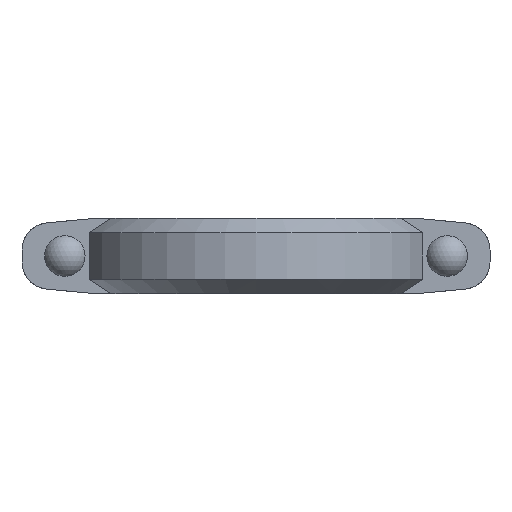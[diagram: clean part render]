
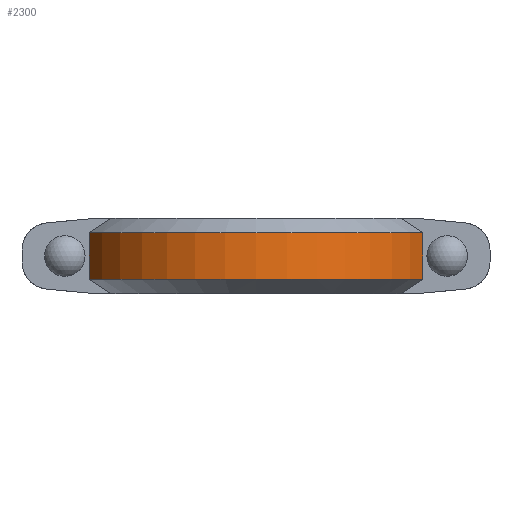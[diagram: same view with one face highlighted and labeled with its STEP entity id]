
A CAD part, front view. The second image highlights one B-rep face of the part: STEP entity #2300.
In plain terms, the highlighted cylindrical face has radius 165.1 mm (diameter 330.2 mm), a partial arc.
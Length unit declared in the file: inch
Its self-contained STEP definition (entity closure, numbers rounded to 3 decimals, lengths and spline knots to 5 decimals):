
#305=FACE_OUTER_BOUND('',#438,.T.);
#438=EDGE_LOOP('',(#2010,#2011,#2012,#2013));
#599=LINE('',#4495,#768);
#600=LINE('',#4503,#769);
#768=VECTOR('',#3151,0.3937);
#769=VECTOR('',#3154,0.3937);
#865=CIRCLE('',#2548,6.5);
#866=CIRCLE('',#2552,6.5);
#1056=VERTEX_POINT('',#4485);
#1057=VERTEX_POINT('',#4491);
#1058=VERTEX_POINT('',#4497);
#1060=VERTEX_POINT('',#4502);
#1360=EDGE_CURVE('',#1056,#1057,#599,.T.);
#1362=EDGE_CURVE('',#1060,#1058,#600,.T.);
#1381=EDGE_CURVE('',#1056,#1058,#865,.T.);
#1383=EDGE_CURVE('',#1057,#1060,#866,.T.);
#2010=ORIENTED_EDGE('',*,*,#1362,.T.);
#2011=ORIENTED_EDGE('',*,*,#1381,.F.);
#2012=ORIENTED_EDGE('',*,*,#1360,.T.);
#2013=ORIENTED_EDGE('',*,*,#1383,.T.);
#2060=CYLINDRICAL_SURFACE('',#2553,6.5);
#2300=ADVANCED_FACE('',(#305),#2060,.T.);
#2548=AXIS2_PLACEMENT_3D('',#4548,#3191,#3192);
#2552=AXIS2_PLACEMENT_3D('',#4553,#3200,#3201);
#2553=AXIS2_PLACEMENT_3D('',#4554,#3202,#3203);
#3151=DIRECTION('',(0.,0.,1.));
#3154=DIRECTION('',(0.,0.,-1.));
#3191=DIRECTION('center_axis',(0.,0.,-1.));
#3192=DIRECTION('ref_axis',(-1.,0.,0.));
#3200=DIRECTION('center_axis',(0.,0.,-1.));
#3201=DIRECTION('ref_axis',(-1.,0.,0.));
#3202=DIRECTION('center_axis',(0.,0.,-1.));
#3203=DIRECTION('ref_axis',(0.,-1.,0.));
#4485=CARTESIAN_POINT('',(6.10914,-2.22,-0.855));
#4491=CARTESIAN_POINT('',(6.10914,-2.22,0.855));
#4495=CARTESIAN_POINT('',(6.10914,-2.22,0.));
#4497=CARTESIAN_POINT('',(-6.10914,-2.22,-0.855));
#4502=CARTESIAN_POINT('',(-6.10914,-2.22,0.855));
#4503=CARTESIAN_POINT('',(-6.10914,-2.22,0.));
#4548=CARTESIAN_POINT('Origin',(0.,0.,-0.855));
#4553=CARTESIAN_POINT('Origin',(0.,0.,0.855));
#4554=CARTESIAN_POINT('Origin',(0.,0.,0.));
